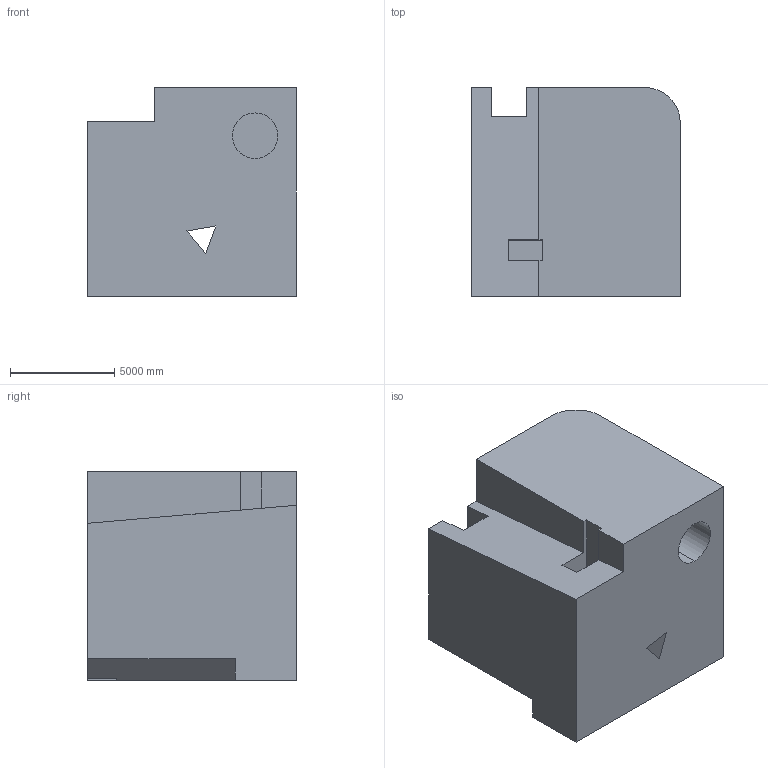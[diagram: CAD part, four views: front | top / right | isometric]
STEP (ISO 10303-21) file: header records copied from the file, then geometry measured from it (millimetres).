
FILE_DESCRIPTION (( 'STEP AP203' ), '1' );
FILE_NAME ('739.STEP', '2022-07-29T12:52:09', ( 'user' ), ( '' ), 'SwSTEP 2.0', 'SolidWorks 2021', '' );
FILE_SCHEMA (( 'CONFIG_CONTROL_DESIGN' ));
Length unit declared in the file: centimetre
Products named in the file (1): 739
Bounding box: 10000 x 10000 x 10000 mm (x, y, z)
Volume: 858737337629.5 mm3; surface area: 713783540.8 mm2
Topology: 1 solids, 1 shells, 33 faces, 90 edges, 60 vertices
Faces by surface type: plane 30, cylinder 3
Entity records: 1111 total; most frequent: CARTESIAN_POINT 184, ORIENTED_EDGE 180, DIRECTION 164, EDGE_CURVE 90, VECTOR 84, LINE 84, VERTEX_POINT 60, AXIS2_PLACEMENT_3D 40
